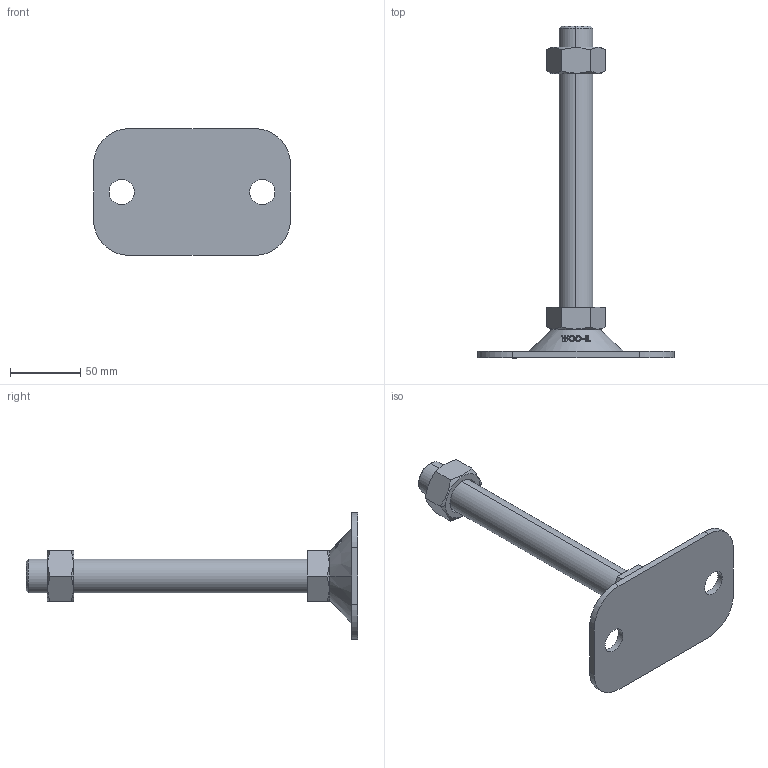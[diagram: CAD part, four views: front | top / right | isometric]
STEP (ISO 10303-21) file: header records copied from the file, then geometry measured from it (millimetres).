
FILE_DESCRIPTION (( 'STEP AP214' ), '1' );
FILE_NAME ('FABL90140-M24-200.step', '2021-03-28T23:54:19', ( '' ), ( '' ), 'SwSTEP 2.0', 'SolidWorks 2019', '' );
FILE_SCHEMA (( 'AUTOMOTIVE_DESIGN' ));
Length unit declared in the file: millimetre
Products named in the file (2): FABL90140-M24-200
Bounding box: 140 x 236 x 90 mm (x, y, z)
Volume: 206031 mm3; surface area: 48732.9 mm2
Topology: 2 solids, 2 shells, 130 faces, 333 edges, 218 vertices
Faces by surface type: plane 50, cylinder 40, cone 22, bspline 18
Entity records: 5607 total; most frequent: CARTESIAN_POINT 2649, ORIENTED_EDGE 666, DIRECTION 485, EDGE_CURVE 333, VERTEX_POINT 218, AXIS2_PLACEMENT_3D 178, EDGE_LOOP 147, B_SPLINE_CURVE_WITH_KNOTS 140
